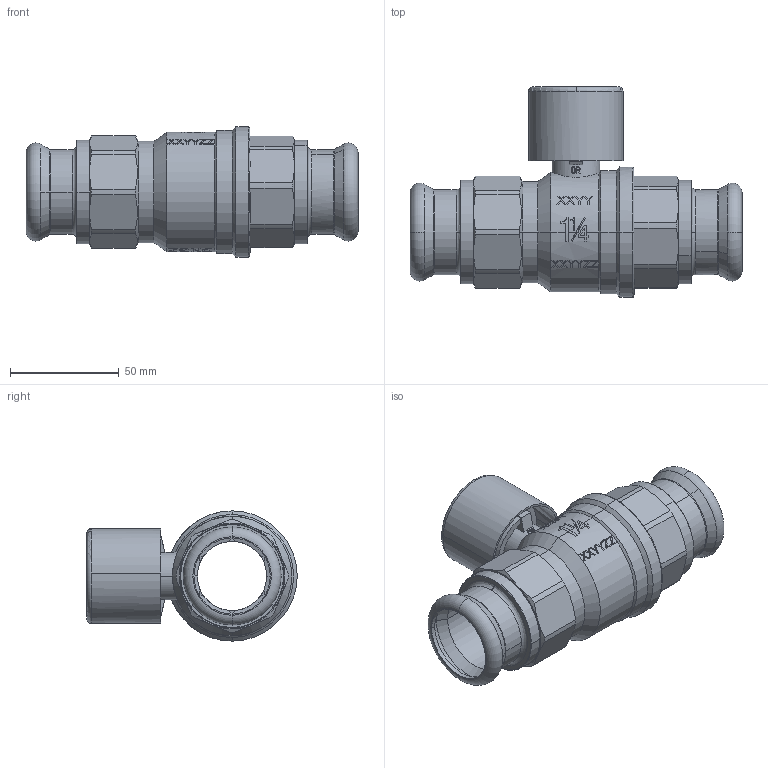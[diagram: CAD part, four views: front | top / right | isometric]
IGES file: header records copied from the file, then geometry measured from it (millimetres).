
Global section: file name: No Iges File Name specified; native system: AutoDesk Inventor R12.0; preprocessor: AutoDesk Inventor Iges Exporter R12.0; date: 20111118.152936; units: millimetre
Bounding box: 152.4 x 96.61 x 59.8 mm (x, y, z)
Volume: 167439.4 mm3; surface area: 69657.8 mm2
Topology: 1 solids, 1 shells, 985 faces, 2782 edges, 1869 vertices
Faces by surface type: plane 474, bspline 244, cylinder 89, revolution 82, cone 80, torus 16
